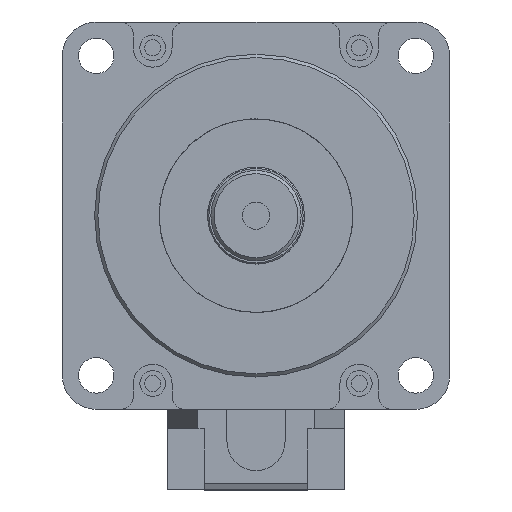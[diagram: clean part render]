
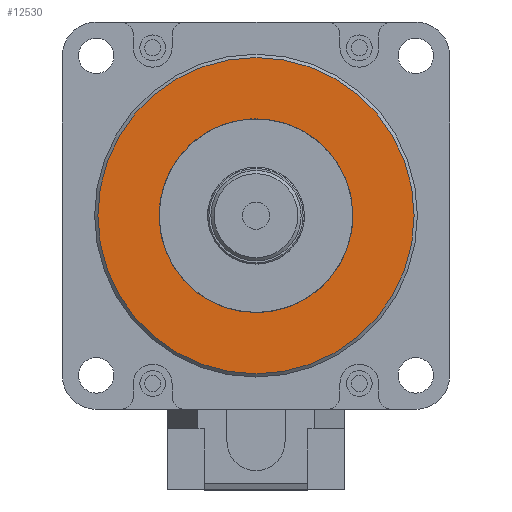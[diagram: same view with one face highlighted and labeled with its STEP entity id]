
A CAD part, left-side view. The second image highlights one B-rep face of the part: STEP entity #12530.
In plain terms, the highlighted planar face has unit normal (-1, 0, 0).
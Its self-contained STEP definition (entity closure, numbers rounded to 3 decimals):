
#16 = VERTEX_POINT ( 'NONE', #3137 ) ;
#317 = EDGE_LOOP ( 'NONE', ( #7967 ) ) ;
#611 = DIRECTION ( 'NONE',  ( 0., 0., -1. ) ) ;
#979 = DIRECTION ( 'NONE',  ( -1., 0., 0. ) ) ;
#992 = CARTESIAN_POINT ( 'NONE',  ( 27., 0., -15. ) ) ;
#1128 = EDGE_CURVE ( 'NONE', #6644, #6644, #12225, .T. ) ;
#1611 = DIRECTION ( 'NONE',  ( 0., 0., -1. ) ) ;
#1788 = EDGE_CURVE ( 'NONE', #16, #16, #12037, .T. ) ;
#2131 = ORIENTED_EDGE ( 'NONE', *, *, #1128, .F. ) ;
#2136 = FACE_OUTER_BOUND ( 'NONE', #317, .T. ) ;
#2368 = AXIS2_PLACEMENT_3D ( 'NONE', #8615, #4676, #611 ) ;
#3137 = CARTESIAN_POINT ( 'NONE',  ( 27., 0., -24.5 ) ) ;
#3364 = PLANE ( 'NONE',  #7944 ) ;
#4676 = DIRECTION ( 'NONE',  ( -1., 0., 0. ) ) ;
#4763 = DIRECTION ( 'NONE',  ( -1., 0., 0. ) ) ;
#4894 = DIRECTION ( 'NONE',  ( 0., 0., -1. ) ) ;
#6644 = VERTEX_POINT ( 'NONE', #992 ) ;
#7944 = AXIS2_PLACEMENT_3D ( 'NONE', #13325, #979, #4894 ) ;
#7967 = ORIENTED_EDGE ( 'NONE', *, *, #1788, .T. ) ;
#8176 = EDGE_LOOP ( 'NONE', ( #2131 ) ) ;
#8615 = CARTESIAN_POINT ( 'NONE',  ( 27., 0., 0. ) ) ;
#9383 = FACE_BOUND ( 'NONE', #8176, .T. ) ;
#12037 = CIRCLE ( 'NONE', #2368, 24.5 ) ;
#12225 = CIRCLE ( 'NONE', #12766, 15. ) ;
#12530 = ADVANCED_FACE ( 'NONE', ( #9383, #2136 ), #3364, .T. ) ;
#12743 = CARTESIAN_POINT ( 'NONE',  ( 27., 0., 0. ) ) ;
#12766 = AXIS2_PLACEMENT_3D ( 'NONE', #12743, #4763, #1611 ) ;
#13325 = CARTESIAN_POINT ( 'NONE',  ( 27., 0., 0. ) ) ;
